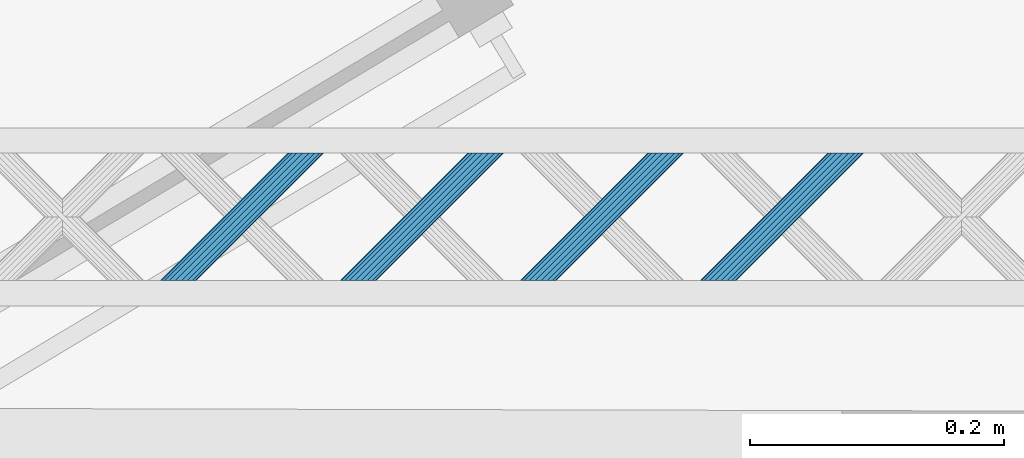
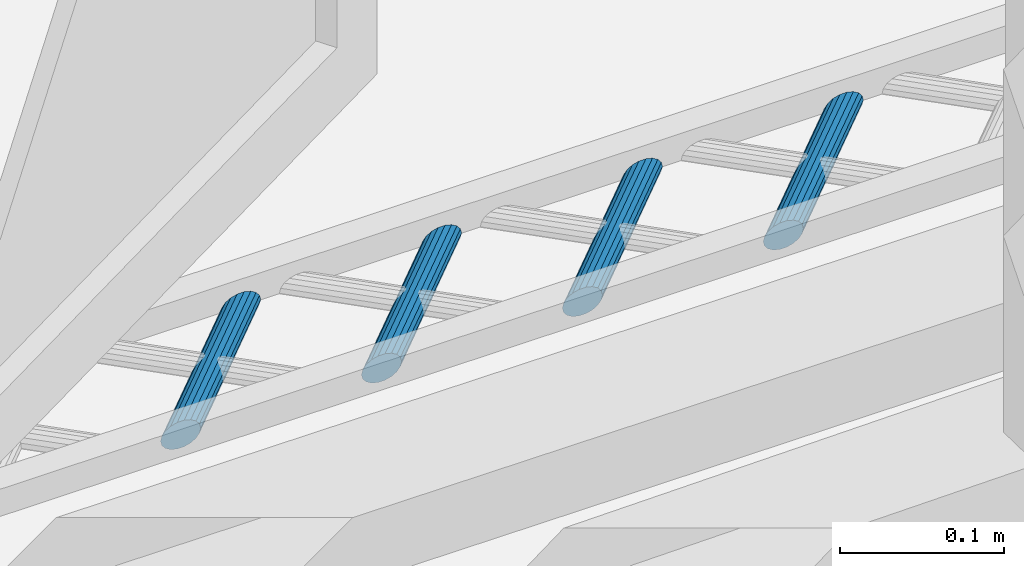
# One storey, part 67 of 133: 4 members, 1 element without a shape of its own.
"""IFC2X3 building model written with IfcOpenShell, lengths in centimetres."""

from ifc_helpers import new_model, entity, si_unit, converted_unit, direction, frame, origin, origin_with_axes, place, context, subcontext, project, spatial, faceted_brep, material, type_object, element, aggregate, save


model = new_model("IFC2X3")

# Units and contexts
model_context = context("Model", 3, precision=0.0001, world=origin(), true_north=direction((0.225632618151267, 0.974212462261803, 0.0)))
body_context = subcontext(model_context, "Body", "Model", "MODEL_VIEW")
ifc_project = project(units=[si_unit("LENGTHUNIT", "METRE", prefix="CENTI"), si_unit("AREAUNIT", "SQUARE_METRE", prefix="CENTI"), si_unit("VOLUMEUNIT", "CUBIC_METRE", prefix="CENTI"), converted_unit("PLANEANGLEUNIT", "DEGREE", entity("IfcRatioMeasure", 0.0174532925), si_unit("PLANEANGLEUNIT", "RADIAN"), dimensions=[0, 0, 0, 0, 0, 0, 0])], contexts=[model_context])

# Site, building, storey
site_placement = place(None, origin_with_axes())
site = spatial("IfcSite", under=ifc_project, at=site_placement, Name="Default Site", CompositionType="ELEMENT")
building_placement = place(site_placement, origin_with_axes())
building = spatial("IfcBuilding", under=site, at=building_placement, Name="Default Building", CompositionType="ELEMENT")
storey_placement = place(building_placement, frame((0.0, 0.0, -291.400371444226), z_axis=(0.0, 0.0, 1.0), x_axis=(1.0, 0.0, 0.0)))
storey = spatial("IfcBuildingStorey", under=building, at=storey_placement, Name="Rez-de-Jardin", CompositionType="ELEMENT", Elevation=-291.400371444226)

# Assembly, members
building_element_proxy_type = type_object("IfcBuildingElementProxyType", Name="Type Object", PredefinedType="NOTDEFINED")
assembly_placement = place(storey_placement, frame((-322.682568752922, 627.125798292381, 0.0), z_axis=(0.0, 1.0, -2.38697950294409e-15), x_axis=(1.0, 0.0, 0.0)))
assembly = element("IfcElementAssembly", 1, at=assembly_placement, inside=storey, type_object=building_element_proxy_type, Name="Panneau 92029", ObjectType="Precast panel", PredefinedType="USERDEFINED")
ifc_material = material(Name="Aluminium satiné")
member_1_placement = place(assembly_placement, frame((137.399995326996, 0.342020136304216, 11.9999997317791), z_axis=(1.16937209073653e-15, -1.43220862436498e-15, 1.0), x_axis=(0.632448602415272, -0.774602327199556, -1.84895987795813e-15)))
member_1 = element("IfcMember", 2, at=member_1_placement, material=ifc_material, Name="4294966822", context=body_context, shape_type="Brep", body=[
    faceted_brep([(6.66133814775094e-14, 2.22044604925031e-14, -1.88737914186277e-13), (-0.388286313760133, 4.44089209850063e-14, -1.89455840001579e-13), (-0.799164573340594, -0.150256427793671, -1.90215537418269e-13), (-1.18306811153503, -0.43263542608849, -1.90925359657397e-13), (-1.49369789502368, -0.813084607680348, -1.91499701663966e-13), (-1.6935832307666, -1.24571109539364, -1.91869281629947e-13), (-1.75862046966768, -1.67834037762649, -1.91989532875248e-13), (-1.68095640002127, -2.05878032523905, -1.91845935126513e-13), (-1.46996349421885, -2.3411503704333, -1.91455817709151e-13), (-1.15109721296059, -2.49140063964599, -1.9086624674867e-13), (-0.762810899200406, -2.49140063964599, -1.90148320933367e-13), (-0.351932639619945, -2.34114421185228, -1.89388623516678e-13), (0.0319708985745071, -2.05876521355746, -1.8867880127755e-13), (0.342600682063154, -1.6783160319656, -1.88104459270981e-13), (0.542486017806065, -1.2456895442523, -1.87734879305e-13), (0.607523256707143, -0.81306026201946, -1.87614628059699e-13), (0.529859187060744, -0.432620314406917, -1.87758225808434e-13), (0.318866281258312, -0.150250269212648, -1.88148343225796e-13), (-6.0056137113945, -7.89626615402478, -9.99999977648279), (-5.79462834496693, -8.17864543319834, -9.99999977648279), (-5.71696427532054, -8.55908538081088, -9.99999977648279), (-5.78200151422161, -8.99171466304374, -9.99999977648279), (-5.98188684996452, -9.42434115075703, -9.99999977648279), (-6.29251663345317, -9.80479033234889, -9.99999977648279), (-6.67642017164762, -10.0871693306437, -9.99999977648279), (-7.08729089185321, -10.2374165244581, -9.99999977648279), (-7.47558474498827, -10.2374257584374, -9.99999977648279), (-7.79445102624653, -10.0871754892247, -9.99999977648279), (-8.00544393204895, -9.80480544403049, -9.99999977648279), (-8.08310046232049, -9.42435626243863, -9.99999977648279), (-8.01807076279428, -8.99173621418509, -9.99999977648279), (-7.81818542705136, -8.55910972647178, -9.99999977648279), (-7.50755564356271, -8.17866054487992, -9.99999977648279), (-7.12365210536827, -7.8962815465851, -9.99999977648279), (-6.71277384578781, -7.7460251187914, -9.99999977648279), (-6.32448753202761, -7.7460251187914, -9.99999977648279), (0.318866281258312, -0.150250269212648, -1.88737914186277e-13), (0.529857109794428, -0.432621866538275, 2.51604855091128e-06), (-5.79462937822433, -8.17864620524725, -9.99999852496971), (-6.00561743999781, -7.89626894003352, -9.99999526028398), (0.529859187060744, -0.432620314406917, -1.88737914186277e-13), (0.607521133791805, -0.813060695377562, 1.67831484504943e-06), (-5.71696516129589, -8.55908556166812, -9.99999907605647), (-5.79462710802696, -8.17864518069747, -10.0000007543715), (0.607523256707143, -0.81306026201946, -1.87350135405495e-13), (0.542487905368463, -1.24568982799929, -9.73995314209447e-07), (-5.7819985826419, -8.99171510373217, -10.000001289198), (-5.71696323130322, -8.55908553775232, -10.0000003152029), (0.542486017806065, -1.2456895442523, -1.88737914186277e-13), (0.342600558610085, -1.67831597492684, 3.38951771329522e-08), (-5.98188641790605, -9.42434135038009, -9.99999989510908), (-5.78200095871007, -8.99171491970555, -9.99999992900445), (0.342600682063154, -1.6783160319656, -1.88737914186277e-13), (0.0319708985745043, -2.05876521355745, -1.90125692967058e-13), (0.0319708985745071, -2.05876521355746, -1.90125692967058e-13), (-0.351932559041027, -2.3411443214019, 3.38951768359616e-08), (-6.67642045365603, -10.0871689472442, -9.99999989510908), (-6.2925169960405, -9.8047898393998, -9.99999992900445), (-0.351932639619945, -2.34114421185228, -1.90125692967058e-13), (-0.762811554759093, -2.49139884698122, -9.73995317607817e-07), (-7.08729025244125, -10.2374182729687, -9.99999882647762), (-6.67642053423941, -10.0871683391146, -10.0000003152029), (-0.762810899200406, -2.49140063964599, -1.90125692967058e-13), (-1.15109721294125, -2.49140280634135, 1.678314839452e-06), (-7.4755847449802, -10.2374266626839, -9.99999907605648), (-7.08729089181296, -10.2374210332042, -9.99999628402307), (-1.15109721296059, -2.49140063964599, -1.9151347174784e-13), (-1.46996459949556, -2.34115271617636, 2.51604855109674e-06), (-7.79445157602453, -10.0871766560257, -9.99999852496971), (-7.47558418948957, -10.2374245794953, -10.0000010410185), (-1.46996349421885, -2.3411503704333, -1.92901250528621e-13), (-1.68095432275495, -2.05877877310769, -2.51604893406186e-06), (-8.00544081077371, -9.80480311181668, -10.0000035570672), (-7.7944499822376, -10.0871747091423, -10.0000010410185), (-1.68095640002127, -2.05878032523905, -1.9151347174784e-13), (-1.75861834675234, -1.67833994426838, -1.67831522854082e-06), (-8.08310275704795, -9.42435673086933, -9.9999979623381), (-8.00544269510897, -9.80480519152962, -10.0000007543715), (-1.75862046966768, -1.67834037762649, -1.92901250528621e-13), (-1.693585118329, -1.24571081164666, 9.73994932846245e-07), (-8.01807160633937, -8.99173608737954, -9.99999934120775), (-8.08310419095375, -9.42435570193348, -9.99999785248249), (-1.6935832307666, -1.24571109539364, -1.92901250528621e-13), (-1.49369777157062, -0.813084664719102, -3.38955563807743e-08), (-7.81818474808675, -8.55911004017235, -9.99999996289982), (-8.01807020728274, -8.9917364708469, -9.99999992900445), (-1.49369789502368, -0.813084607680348, -1.92901250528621e-13), (-1.18306811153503, -0.432635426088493, -1.9151347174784e-13), (-7.50755564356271, -8.17866054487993, -9.99999977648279), (-1.18306811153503, -0.43263542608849, -1.9151347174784e-13), (-0.799164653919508, -0.150256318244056, -3.38955569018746e-08), (-7.12365254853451, -7.89628094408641, -9.99999996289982), (-7.50755600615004, -8.17866005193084, -9.99999992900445), (-0.799164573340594, -0.150256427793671, -1.9151347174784e-13), (-0.388285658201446, -1.79266472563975e-06, 9.7399493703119e-07), (-6.71277355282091, -7.74602591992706, -9.99999934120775), (-7.12365246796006, -7.896280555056, -10.0000003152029), (-0.388286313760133, 4.44089209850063e-14, -1.90125692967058e-13), (-1.92781584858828e-11, 2.16669539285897e-06, -1.67831523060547e-06), (-6.32448753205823, -7.74602168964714, -10.0000024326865), (-6.71277384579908, -7.7460238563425, -10.0000007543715), (0.318867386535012, -0.150247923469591, -2.51604892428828e-06), (-6.00561459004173, -7.89626801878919, -9.99999777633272), (-6.32448697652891, -7.74602393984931, -10.0000010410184)], [[[0, 1, 2, 3, 4, 5, 6, 7, 8, 9, 10, 11, 12, 13, 14, 15, 16, 17]], [[18, 19, 20, 21, 22, 23, 24, 25, 26, 27, 28, 29, 30, 31, 32, 33, 34, 35]], [[36, 37, 38, 39]], [[40, 41, 42, 43]], [[44, 45, 46, 47]], [[48, 49, 50, 51]], [[52, 53, 23, 22]], [[54, 55, 56, 57]], [[58, 59, 60, 61]], [[62, 63, 64, 65]], [[66, 67, 68, 69]], [[70, 71, 72, 73]], [[74, 75, 76, 77]], [[78, 79, 80, 81]], [[82, 83, 84, 85]], [[86, 87, 88, 31]], [[89, 90, 91, 92]], [[93, 94, 95, 96]], [[97, 98, 99, 100]], [[0, 101, 102, 103]]]),
])
member_2_placement = place(assembly_placement, frame((151.542127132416, 0.342020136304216, 11.9999997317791), z_axis=(1.16937209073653e-15, -1.43220862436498e-15, 1.0), x_axis=(0.632448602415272, -0.774602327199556, -1.84895987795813e-15)))
member_2 = element("IfcMember", 3, at=member_2_placement, material=ifc_material, Name="4294966821", context=body_context, shape_type="Brep", body=[
    faceted_brep([(3.33066907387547e-14, 2.22044604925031e-14, -1.72084568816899e-13), (-0.388286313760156, 4.44089209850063e-14, -1.72802494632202e-13), (-0.799164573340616, -0.150256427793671, -1.73562192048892e-13), (-1.18306811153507, -0.432635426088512, -1.74272014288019e-13), (-1.49369789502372, -0.81308460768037, -1.74846356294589e-13), (-1.69358323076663, -1.24571109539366, -1.7521593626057e-13), (-1.75861293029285, -1.67833114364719, -1.75336173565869e-13), (-1.68095640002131, -2.05878032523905, -1.75192589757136e-13), (-1.46996349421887, -2.3411503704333, -1.74802472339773e-13), (-1.15109721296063, -2.49140063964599, -1.74212901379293e-13), (-0.76280335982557, -2.4913914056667, -1.73494961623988e-13), (-0.351932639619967, -2.3411442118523, -1.72735278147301e-13), (0.0319708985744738, -2.05876521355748, -1.72025455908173e-13), (0.342600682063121, -1.67831603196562, -1.71451113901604e-13), (0.542486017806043, -1.2456895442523, -1.71081533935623e-13), (0.607523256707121, -0.81306026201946, -1.70961282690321e-13), (0.529859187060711, -0.432620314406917, -1.71104880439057e-13), (0.318873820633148, -0.150241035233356, -1.71494983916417e-13), (-6.00561371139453, -7.89626615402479, -9.99999977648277), (-5.79462834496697, -8.17864543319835, -9.99999977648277), (-5.71696427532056, -8.55908538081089, -9.99999977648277), (-5.78200151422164, -8.99171466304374, -9.99999977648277), (-5.98188684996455, -9.42434115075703, -9.99999977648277), (-6.29250909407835, -9.8047810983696, -9.99999977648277), (-6.67641263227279, -10.0871600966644, -9.99999977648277), (-7.08729089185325, -10.2374165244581, -9.99999977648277), (-7.47557720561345, -10.2374165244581, -9.99999977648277), (-7.79445102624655, -10.0871754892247, -9.99999977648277), (-8.00543639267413, -9.80479621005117, -9.99999977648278), (-8.08310046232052, -9.42435626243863, -9.99999977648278), (-8.01806322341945, -8.99172698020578, -9.99999977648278), (-7.81817788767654, -8.55910049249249, -9.99999977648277), (-7.50755564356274, -8.17866054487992, -9.99999977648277), (-7.12365210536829, -7.8962815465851, -9.99999977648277), (-6.71277384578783, -7.74602511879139, -9.99999977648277), (-6.32448753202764, -7.74602511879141, -9.99999977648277), (0.318873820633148, -0.150241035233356, -1.72084568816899e-13), (0.529861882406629, -0.432618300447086, -3.26468590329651e-06), (-5.79462460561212, -8.17864263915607, -10.0000043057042), (-6.0056126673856, -7.89626537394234, -10.0000010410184), (0.529859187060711, -0.432620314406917, -1.72084568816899e-13), (0.607521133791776, -0.813060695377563, 1.67831486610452e-06), (-5.71696516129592, -8.55908556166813, -9.99999907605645), (-5.79462710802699, -8.17864518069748, -10.0000007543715), (0.607523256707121, -0.81306026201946, -1.72084568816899e-13), (0.542487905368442, -1.24568982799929, -9.73995297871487e-07), (-5.78199858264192, -8.99171510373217, -10.000001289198), (-5.71696323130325, -8.55908553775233, -10.0000003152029), (0.542486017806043, -1.2456895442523, -1.72084568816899e-13), (0.342600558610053, -1.67831597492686, 3.38951935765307e-08), (-5.98188641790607, -9.42434135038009, -9.99999989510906), (-5.78200095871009, -8.99171491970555, -9.99999992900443), (0.342600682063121, -1.67831603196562, -1.72084568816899e-13), (0.0319708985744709, -2.05876521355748, -1.73472347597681e-13), (-6.29250909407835, -9.8047810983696, -9.99999977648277), (-5.98188684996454, -9.42434115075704, -9.99999977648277), (0.0319708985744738, -2.05876521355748, -1.73472347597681e-13), (-0.351932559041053, -2.34114432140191, 3.38951919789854e-08), (-6.67641125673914, -10.0871619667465, -9.99999919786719), (-6.29250779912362, -9.80478285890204, -9.99999923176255), (-0.351932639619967, -2.3411442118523, -1.73472347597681e-13), (-0.762802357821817, -2.4913941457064, 1.48872507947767e-06), (-7.08729025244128, -10.2374182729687, -9.9999988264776), (-6.67641133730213, -10.0871636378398, -9.99999785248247), (-0.76280335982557, -2.4913914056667, -1.73472347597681e-13), (-1.15109721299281, -2.49139703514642, -2.79203357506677e-06), (-7.47557720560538, -10.2374174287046, -9.99999907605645), (-7.08729089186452, -10.2374152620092, -10.0000007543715), (-1.15109721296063, -2.49140063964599, -1.76247905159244e-13), (-1.46996459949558, -2.34115271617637, 2.51604856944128e-06), (-7.79445157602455, -10.0871766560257, -9.99999852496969), (-7.47557918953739, -10.2374207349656, -9.99999526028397), (-1.46996349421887, -2.3411503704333, -1.76247905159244e-13), (-1.68095432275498, -2.05877877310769, -2.51604892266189e-06), (-8.00543804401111, -9.80479744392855, -9.99999777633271), (-7.79444998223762, -10.0871747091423, -10.0000010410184), (-1.68095640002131, -2.05878032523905, -1.76247905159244e-13), (-1.75861646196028, -1.67833186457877, 2.79203323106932e-06), (-8.08310275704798, -9.42435673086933, -9.99999796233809), (-8.00544081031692, -9.80479711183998, -9.99999628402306), (-1.75861293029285, -1.67833114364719, -1.76247905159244e-13), (-1.69358034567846, -1.24571152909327, -1.4887254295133e-06), (-8.01806406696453, -8.99172685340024, -9.99999934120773), (-8.08309941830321, -9.42435641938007, -10.0000003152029), (-1.69358323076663, -1.24571109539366, -1.76247905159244e-13), (-1.49369777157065, -0.813084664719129, -3.38955420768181e-08), (-7.81817974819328, -8.5590996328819, -9.99999926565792), (-8.01806520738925, -8.99172606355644, -9.99999923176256), (-1.49369789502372, -0.81308460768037, -1.76247905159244e-13), (-1.18306811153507, -0.432635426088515, -1.74860126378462e-13), (-7.50755564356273, -8.17866054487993, -9.99999977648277), (-1.18306811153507, -0.432635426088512, -1.74860126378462e-13), (-0.799164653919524, -0.150256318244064, -3.38955375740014e-08), (-7.12365254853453, -7.89628094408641, -9.9999999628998), (-7.50755600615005, -8.17866005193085, -9.99999992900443), (-0.799164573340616, -0.150256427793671, -1.74860126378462e-13), (-0.388285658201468, -1.79266472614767e-06, 9.73994952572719e-07), (-6.71277355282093, -7.74602591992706, -9.99999934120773), (-7.12365246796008, -7.896280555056, -10.0000003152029), (-0.388286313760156, 4.44089209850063e-14, -1.74860126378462e-13), (-1.93114651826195e-11, 2.16669539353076e-06, -1.67831521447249e-06), (-6.32448753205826, -7.74602168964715, -10.0000024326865), (-6.71277384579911, -7.7460238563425, -10.0000007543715), (0.318872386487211, -0.150244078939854, 3.26468555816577e-06), (-6.00561459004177, -7.8962680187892, -9.99999777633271), (-6.32448697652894, -7.74602393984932, -10.0000010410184)], [[[0, 1, 2, 3, 4, 5, 6, 7, 8, 9, 10, 11, 12, 13, 14, 15, 16, 17]], [[18, 19, 20, 21, 22, 23, 24, 25, 26, 27, 28, 29, 30, 31, 32, 33, 34, 35]], [[36, 37, 38, 39]], [[40, 41, 42, 43]], [[44, 45, 46, 47]], [[48, 49, 50, 51]], [[52, 53, 54, 55]], [[56, 57, 58, 59]], [[60, 61, 62, 63]], [[64, 65, 66, 67]], [[68, 69, 70, 71]], [[72, 73, 74, 75]], [[76, 77, 78, 79]], [[80, 81, 82, 83]], [[84, 85, 86, 87]], [[88, 89, 90, 31]], [[91, 92, 93, 94]], [[95, 96, 97, 98]], [[99, 100, 101, 102]], [[0, 103, 104, 105]]]),
])
member_3_placement = place(assembly_placement, frame((165.684270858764, 0.342020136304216, 11.9999997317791), z_axis=(1.16938344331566e-15, -1.43215300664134e-15, 1.0), x_axis=(0.632467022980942, -0.774587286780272, -1.84892397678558e-15)))
member_3 = element("IfcMember", 4, at=member_3_placement, material=ifc_material, Name="4294966820", context=body_context, shape_type="Brep", body=[
    faceted_brep([(8.88178419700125e-14, -2.22044604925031e-14, -7.49400541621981e-14), (-0.388293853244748, -2.22044604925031e-14, -7.56579799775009e-14), (-0.799168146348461, -0.150237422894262, -7.64176553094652e-14), (-1.18308593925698, -0.432616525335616, -7.71274901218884e-14), (-1.49371723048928, -0.813049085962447, -7.77018237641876e-14), (-1.69361285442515, -1.24567082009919, -7.80714155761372e-14), (-1.75866038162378, -1.67829855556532, -7.81916835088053e-14), (-1.68100535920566, -2.05874034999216, -7.80481052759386e-14), (-1.47002670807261, -2.34112464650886, -7.76580217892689e-14), (-1.15115646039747, -2.49137326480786, -7.70684549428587e-14), (-0.762870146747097, -2.49138249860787, -7.63505430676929e-14), (-0.351988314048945, -2.3411358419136, -7.55908537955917e-14), (0.0319219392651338, -2.05876597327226, -7.48810329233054e-14), (0.342553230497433, -1.67833341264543, -7.43066992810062e-14), (0.542456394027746, -1.24570244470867, -7.39370935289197e-14), (0.607496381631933, -0.813083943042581, -7.38168395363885e-14), (0.529848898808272, -0.432632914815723, -7.39604038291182e-14), (0.318862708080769, -0.150257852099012, -7.43505012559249e-14), (-6.00580902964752, -7.89613256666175, -9.99999977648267), (-5.79482283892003, -8.17850762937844, -9.99999977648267), (-5.71717535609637, -8.5589586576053, -9.99999977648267), (-5.78221534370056, -8.99157715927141, -9.99999977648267), (-5.98211096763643, -9.42419889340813, -9.99999977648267), (-6.29274979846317, -9.804640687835, -9.99999977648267), (-6.67666005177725, -10.0870105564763, -9.99999977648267), (-7.08754188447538, -10.2372572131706, -9.99999977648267), (-7.47582819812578, -10.2372479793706, -9.99999977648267), (-7.79469844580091, -10.0869993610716, -9.99999977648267), (-8.00567709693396, -9.80461506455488, -9.99999977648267), (-8.08333211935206, -9.42417327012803, -9.99999977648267), (-8.01828459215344, -8.9915455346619, -9.99999977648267), (-7.81838896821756, -8.55892380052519, -9.99999977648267), (-7.50775013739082, -8.17848200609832, -9.99999977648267), (-7.12383988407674, -7.896112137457, -9.99999977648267), (-6.71296559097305, -7.74587471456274, -9.99999977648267), (-6.32467173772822, -7.74587471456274, -9.99999977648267), (0.318862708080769, -0.150257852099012, -7.49400541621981e-14), (0.529846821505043, -0.432634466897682, 2.51604866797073e-06), (-5.79482387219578, -8.17850840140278, -9.99999852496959), (-6.00580798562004, -7.89613178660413, -10.0000010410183), (0.529848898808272, -0.432632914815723, -7.49400541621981e-14), (0.607499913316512, -0.813083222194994, -2.79203348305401e-06), (-5.7171705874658, -8.55895768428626, -10.0000035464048), (-5.79482160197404, -8.17850737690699, -10.0000007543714), (0.607496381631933, -0.813083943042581, -7.49400541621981e-14), (0.542453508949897, -1.24570201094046, 1.48872517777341e-06), (-5.78221718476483, -8.99157688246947, -9.9999988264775), (-5.71717431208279, -8.55895881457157, -10.0000003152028), (0.542456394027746, -1.24570244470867, -7.49400541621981e-14), (0.342555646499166, -1.67833452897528, -6.63346583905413e-07), (-5.9821105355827, -9.42419909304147, -9.99999989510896), (-5.78221478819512, -8.99157741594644, -9.99999992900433), (0.342553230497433, -1.67833341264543, -7.49400541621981e-14), (0.031921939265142, -2.05876597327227, -7.63278329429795e-14), (-5.98211096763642, -9.42419889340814, -9.99999977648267), (0.0319219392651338, -2.05876597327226, -7.63278329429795e-14), (-0.351988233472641, -2.34113595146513, 3.38952871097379e-08), (-6.67666033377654, -10.0870101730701, -9.99999989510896), (-6.29275016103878, -9.80464019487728, -9.99999992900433), (-0.351988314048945, -2.3411358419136, -7.63278329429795e-14), (-0.762870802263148, -2.49138070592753, -9.73995196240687e-07), (-7.08754290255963, -10.2372544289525, -10.0000012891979), (-6.67666041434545, -10.0870095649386, -10.0000003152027), (-0.762870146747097, -2.49138249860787, -7.63278329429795e-14), (-1.15115646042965, -2.49137543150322, 1.67831495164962e-06), (-7.47582819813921, -10.237248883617, -9.99999907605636), (-7.08754188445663, -10.2372559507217, -10.0000007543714), (-1.15115646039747, -2.49137326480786, -7.91033905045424e-14), (-1.4700252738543, -2.34112160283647, -3.26468580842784e-06), (-7.79469645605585, -10.0869951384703, -10.0000043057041), (-7.47582764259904, -10.2372468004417, -10.0000010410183), (-1.47002670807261, -2.34112464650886, -7.91033905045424e-14), (-1.68100805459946, -2.05874236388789, 3.26468564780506e-06), (-8.00567874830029, -9.80461629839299, -9.99999777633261), (-7.79469740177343, -10.086998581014, -10.0000010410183), (-1.68100535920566, -2.05874034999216, -7.91033905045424e-14), (-1.75865825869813, -1.6782981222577, -1.67831511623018e-06), (-8.08332875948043, -9.42417258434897, -10.0000024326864), (-8.00567585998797, -9.80461481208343, -10.0000007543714), (-1.75866038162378, -1.67829855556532, -7.91033905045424e-14), (-1.69361474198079, -1.24567053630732, 9.73995042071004e-07), (-8.01828543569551, -8.9915454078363, -9.99999934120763), (-8.08333107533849, -9.4241734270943, -10.0000003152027), (-1.69361285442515, -1.24567082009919, -7.91033905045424e-14), (-1.49371710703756, -0.813049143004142, -3.38954453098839e-08), (-7.81838828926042, -8.5589241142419, -9.99999996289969), (-8.018284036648, -8.99154579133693, -9.99999992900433), (-1.49371723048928, -0.813049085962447, -7.91033905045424e-14), (-1.18308593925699, -0.43261652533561, -7.7715611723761e-14), (-7.50775013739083, -8.17848200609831, -9.99999977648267), (-7.81838896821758, -8.55892380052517, -9.99999977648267), (-1.18308593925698, -0.432616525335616, -7.7715611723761e-14), (-0.799166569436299, -0.150239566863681, 6.63346436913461e-07), (-7.1238386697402, -7.8961137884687, -9.99999926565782), (-7.50774884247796, -8.17848376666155, -9.99999923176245), (-0.799168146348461, -0.150237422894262, -7.7715611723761e-14), (-0.38829485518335, 2.74006353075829e-06, -1.48872534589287e-06), (-6.71296695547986, -7.74587098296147, -10.000001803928), (-7.12384024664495, -7.89611114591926, -10.0000003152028), (-0.388293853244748, -2.22044604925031e-14, -7.7715611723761e-14), (-5.34476149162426e-11, -3.60449959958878e-06, 2.79203333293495e-06), (-6.324671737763, -7.74587705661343, -9.99999796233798), (-6.7129655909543, -7.74587345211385, -10.0000007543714), (0.318863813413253, -0.150255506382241, -2.51604880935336e-06), (-6.0058073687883, -7.89612904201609, -10.0000035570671), (-6.32467118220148, -7.74587353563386, -10.0000010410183)], [[[0, 1, 2, 3, 4, 5, 6, 7, 8, 9, 10, 11, 12, 13, 14, 15, 16, 17]], [[18, 19, 20, 21, 22, 23, 24, 25, 26, 27, 28, 29, 30, 31, 32, 33, 34, 35]], [[36, 37, 38, 39]], [[40, 41, 42, 43]], [[44, 45, 46, 47]], [[48, 49, 50, 51]], [[52, 53, 23, 54]], [[55, 56, 57, 58]], [[59, 60, 61, 62]], [[63, 64, 65, 66]], [[67, 68, 69, 70]], [[71, 72, 73, 74]], [[75, 76, 77, 78]], [[79, 80, 81, 82]], [[83, 84, 85, 86]], [[87, 88, 89, 90]], [[91, 92, 93, 94]], [[95, 96, 97, 98]], [[99, 100, 101, 102]], [[0, 103, 104, 105]]]),
])
member_4_placement = place(assembly_placement, frame((179.826402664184, 0.342020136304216, 11.9999997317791), z_axis=(1.16938344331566e-15, -1.43215300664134e-15, 1.0), x_axis=(0.632467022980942, -0.774587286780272, -1.84892397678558e-15)))
member_4 = element("IfcMember", 5, at=member_4_placement, material=ifc_material, Name="4294966819", context=body_context, shape_type="Brep", body=[
    faceted_brep([(8.88178419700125e-14, -2.22044604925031e-14, -5.82867087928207e-14), (-0.388293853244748, -2.22044604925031e-14, -5.90046346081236e-14), (-0.799168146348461, -0.150237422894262, -5.97643099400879e-14), (-1.18307839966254, -0.432607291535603, -6.04741308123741e-14), (-1.49371723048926, -0.813049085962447, -6.10484783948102e-14), (-1.69361285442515, -1.24567082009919, -6.14180702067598e-14), (-1.75866038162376, -1.67829855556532, -6.15383381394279e-14), (-1.68100535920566, -2.05874034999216, -6.13947599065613e-14), (-1.47001916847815, -2.34111541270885, -6.10046624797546e-14), (-1.15115646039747, -2.49137326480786, -6.04151095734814e-14), (-0.762870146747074, -2.49138249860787, -5.96971976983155e-14), (-0.351988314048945, -2.3411358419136, -5.89375084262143e-14), (0.031921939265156, -2.05876597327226, -5.8227687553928e-14), (0.342560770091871, -1.67832417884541, -5.76533399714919e-14), (0.542456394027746, -1.24570244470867, -5.72837481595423e-14), (0.607496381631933, -0.813083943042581, -5.71634941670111e-14), (0.529848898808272, -0.432632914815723, -5.73070584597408e-14), (0.318862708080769, -0.150257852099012, -5.76971558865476e-14), (-6.00580902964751, -7.89613256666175, -9.99999977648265), (-5.79482283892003, -8.17850762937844, -9.99999977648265), (-5.71716781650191, -8.55894942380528, -9.99999977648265), (-5.78221534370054, -8.99157715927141, -9.99999977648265), (-5.98211096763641, -9.42419889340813, -9.99999977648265), (-6.29274979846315, -9.804640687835, -9.99999977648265), (-6.67666005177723, -10.0870105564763, -9.99999977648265), (-7.08753434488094, -10.2372479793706, -9.99999977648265), (-7.47582819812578, -10.2372479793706, -9.99999977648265), (-7.79469090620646, -10.0869901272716, -9.99999977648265), (-8.00567709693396, -9.80461506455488, -9.99999977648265), (-8.08332457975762, -9.42416403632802, -9.99999977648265), (-8.01828459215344, -8.9915455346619, -9.99999977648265), (-7.81838896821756, -8.55892380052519, -9.99999977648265), (-7.50775013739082, -8.17848200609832, -9.99999977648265), (-7.12383988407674, -7.896112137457, -9.99999977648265), (-6.71295805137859, -7.74586548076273, -9.99999977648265), (-6.32467173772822, -7.74587471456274, -9.99999977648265), (0.318862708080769, -0.150257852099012, -5.82867087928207e-14), (0.529846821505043, -0.432634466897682, 2.51604868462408e-06), (-5.79482387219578, -8.17850840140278, -9.99999852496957), (-6.00580798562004, -7.89613178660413, -10.0000010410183), (0.529848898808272, -0.432632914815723, -5.82867087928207e-14), (0.607499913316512, -0.813083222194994, -2.79203346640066e-06), (-5.71716870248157, -8.55894960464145, -9.99999907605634), (-5.79482160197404, -8.17850737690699, -10.0000007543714), (0.607496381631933, -0.813083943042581, -5.82867087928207e-14), (0.542453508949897, -1.24570201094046, 1.48872519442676e-06), (-5.78221718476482, -8.99157688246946, -9.99999882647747), (-5.71717154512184, -8.55894886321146, -9.99999785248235), (0.542456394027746, -1.24570244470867, -5.82867087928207e-14), (0.342560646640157, -1.67832412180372, 3.38953078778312e-08), (-5.98211053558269, -9.42419909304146, -9.99999989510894), (-5.78221478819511, -8.99157741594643, -9.99999992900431), (0.342560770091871, -1.67832417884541, -5.82867087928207e-14), (0.0319219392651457, -2.05876597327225, -5.96744875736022e-14), (-6.29274979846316, -9.80464068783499, -9.99999977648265), (-5.98211096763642, -9.42419889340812, -9.99999977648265), (0.031921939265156, -2.05876597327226, -5.96744875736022e-14), (-0.351988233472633, -2.34113595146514, 3.38953068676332e-08), (-6.67666033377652, -10.0870101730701, -9.99999989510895), (-6.29275016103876, -9.80464019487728, -9.99999992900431), (-0.351988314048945, -2.3411358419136, -5.96744875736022e-14), (-0.762870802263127, -2.49138070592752, -9.73995183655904e-07), (-7.08753370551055, -10.2372497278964, -9.99999882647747), (-6.67666041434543, -10.0870095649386, -10.0000003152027), (-0.762870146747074, -2.49138249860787, -6.10622663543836e-14), (-1.15115646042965, -2.49137543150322, 1.67831496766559e-06), (-7.47582819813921, -10.237248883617, -9.99999907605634), (-7.08753434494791, -10.2372524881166, -9.99999628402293), (-1.15115646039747, -2.49137326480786, -6.24500451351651e-14), (-1.47002027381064, -2.34111775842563, 2.51604868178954e-06), (-7.79469145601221, -10.0869912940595, -9.99999852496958), (-7.47582764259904, -10.2372468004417, -10.0000010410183), (-1.47001916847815, -2.34111541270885, -6.24500451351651e-14), (-1.68100328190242, -2.0587387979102, -2.51604881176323e-06), (-8.00567397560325, -9.80461273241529, -10.0000035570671), (-7.79468986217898, -10.0869893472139, -10.0000010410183), (-1.68100535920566, -2.05874034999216, -6.24500451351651e-14), (-1.75865825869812, -1.6782981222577, -1.67831508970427e-06), (-8.08332687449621, -9.42416450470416, -9.99999796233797), (-8.00567585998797, -9.80461481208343, -10.0000007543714), (-1.75866038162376, -1.67829855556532, -6.38378239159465e-14), (-1.69361474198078, -1.24567053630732, 9.73995049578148e-07), (-8.01828543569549, -8.9915454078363, -9.99999934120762), (-8.08332830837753, -9.4241634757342, -9.99999785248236), (-1.69361285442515, -1.24567082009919, -6.24500451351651e-14), (-1.49371710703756, -0.813049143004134, -3.38954239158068e-08), (-7.81838828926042, -8.5589241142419, -9.99999996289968), (-8.018284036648, -8.99154579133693, -9.99999992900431), (-1.49371723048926, -0.813049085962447, -6.24500451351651e-14), (-1.18307839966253, -0.432607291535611, -6.10622663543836e-14), (-7.81838896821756, -8.55892380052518, -9.99999977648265), (-1.18307839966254, -0.432607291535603, -6.10622663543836e-14), (-0.799168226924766, -0.150237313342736, -3.38954245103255e-08), (-7.12384032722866, -7.89611153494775, -9.99999996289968), (-7.50775049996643, -8.17848151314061, -9.99999992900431), (-0.799168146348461, -0.150237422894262, -6.10622663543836e-14), (-0.38829485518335, 2.74006353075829e-06, -1.48872532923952e-06), (-6.71295775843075, -7.74586628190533, -9.99999934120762), (-7.12384024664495, -7.89611114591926, -10.0000003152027), (-0.388293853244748, -2.22044604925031e-14, -6.10622663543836e-14), (-5.34476149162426e-11, -3.60449959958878e-06, 2.79203334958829e-06), (-6.324671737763, -7.74587705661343, -9.99999796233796), (-6.71295805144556, -7.74586998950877, -9.99999628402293), (0.318863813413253, -0.150255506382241, -2.51604879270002e-06), (-6.00580736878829, -7.89612904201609, -10.0000035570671), (-6.32467118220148, -7.74587353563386, -10.0000010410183)], [[[0, 1, 2, 3, 4, 5, 6, 7, 8, 9, 10, 11, 12, 13, 14, 15, 16, 17]], [[18, 19, 20, 21, 22, 23, 24, 25, 26, 27, 28, 29, 30, 31, 32, 33, 34, 35]], [[36, 37, 38, 39]], [[40, 41, 42, 43]], [[44, 45, 46, 47]], [[48, 49, 50, 51]], [[52, 53, 54, 55]], [[56, 57, 58, 59]], [[60, 61, 62, 63]], [[64, 65, 66, 67]], [[68, 69, 70, 71]], [[72, 73, 74, 75]], [[76, 77, 78, 79]], [[80, 81, 82, 83]], [[84, 85, 86, 87]], [[88, 89, 32, 90]], [[91, 92, 93, 94]], [[95, 96, 97, 98]], [[99, 100, 101, 102]], [[0, 103, 104, 105]]]),
])
aggregate(assembly, [member_1, member_2, member_3, member_4])

save(model, "model.ifc")
